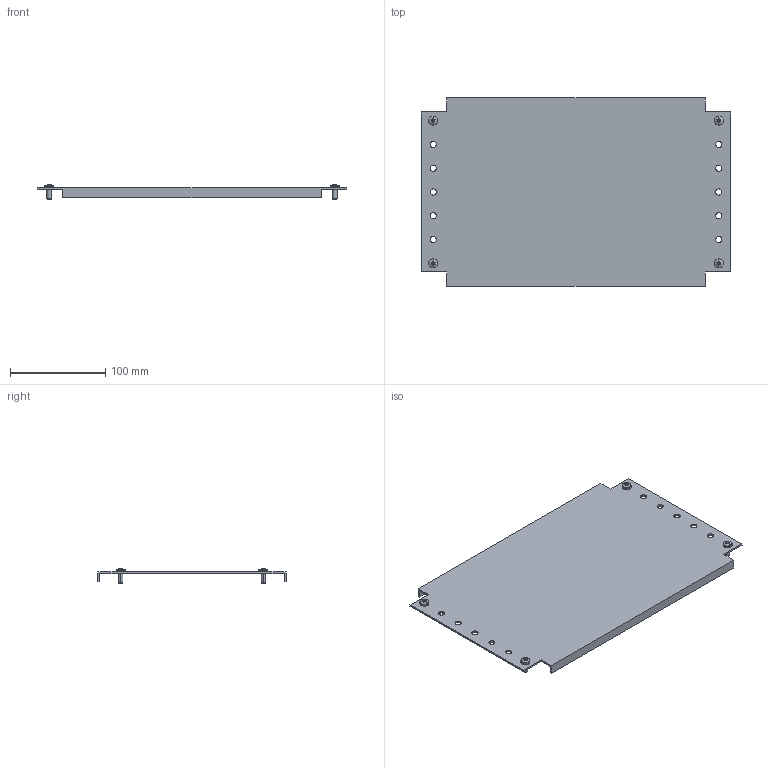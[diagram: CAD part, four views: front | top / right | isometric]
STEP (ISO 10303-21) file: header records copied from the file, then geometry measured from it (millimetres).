
FILE_DESCRIPTION (( 'STEP AP203' ), '1' );
FILE_NAME ('R6MPP02400.STEP', '2025-05-16T08:08:45', ( '' ), ( '' ), 'SwSTEP 2.0', 'SolidWorks 2022', '' );
FILE_SCHEMA (( 'CONFIG_CONTROL_DESIGN' ));
Length unit declared in the file: millimetre
Products named in the file (3): RB.3313.00.00.0 simple; M5x12 DIN 7500 C Torx Zinc_stright; R6MPP02400
Assembly tree (5 placements, depth 2):
  R6MPP02400
    RB.3313.00.00.0 simple
    M5x12 DIN 7500 C Torx Zinc_stright  x4
Bounding box: 325 x 198 x 15.56 mm (x, y, z)
Volume: 121755.8 mm3; surface area: 137576.5 mm2
Topology: 5 solids, 5 shells, 150 faces, 356 edges, 212 vertices
Faces by surface type: plane 58, cylinder 44, cone 16, torus 16, bspline 8, sphere 8
Entity records: 3055 total; most frequent: CARTESIAN_POINT 633, DIRECTION 446, ORIENTED_EDGE 408, EDGE_CURVE 204, AXIS2_PLACEMENT_3D 168, VERTEX_POINT 131, VECTOR 110, LINE 110
